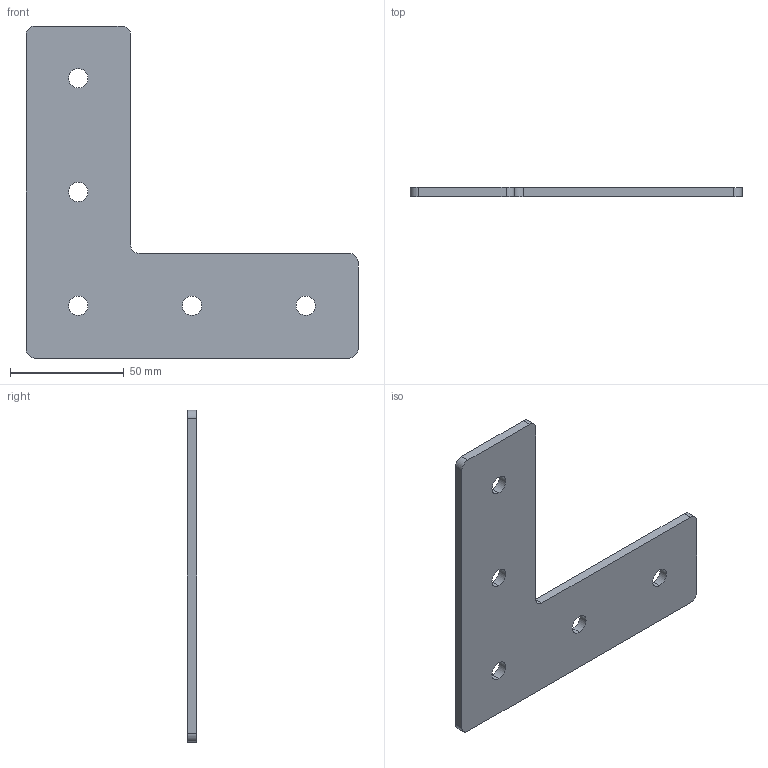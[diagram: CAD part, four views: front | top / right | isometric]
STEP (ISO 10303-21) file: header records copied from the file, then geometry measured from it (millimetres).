
FILE_DESCRIPTION (( 'STEP AP203' ), '1' );
FILE_NAME ('Ã-5-50.STEP', '2017-03-22T08:26:11', ( 'RosInstal-MKM' ), ( '' ), 'SwSTEP 2.0', 'SolidWorks 2014', '' );
FILE_SCHEMA (( 'CONFIG_CONTROL_DESIGN' ));
Length unit declared in the file: millimetre
Products named in the file (1): ﾃ-5-50
Bounding box: 146 x 4 x 146 mm (x, y, z)
Volume: 44080.2 mm3; surface area: 24871.3 mm2
Topology: 1 solids, 1 shells, 24 faces, 66 edges, 44 vertices
Faces by surface type: cylinder 16, plane 8
Entity records: 879 total; most frequent: DIRECTION 148, CARTESIAN_POINT 135, ORIENTED_EDGE 132, EDGE_CURVE 66, AXIS2_PLACEMENT_3D 57, VERTEX_POINT 44, EDGE_LOOP 34, LINE 34
